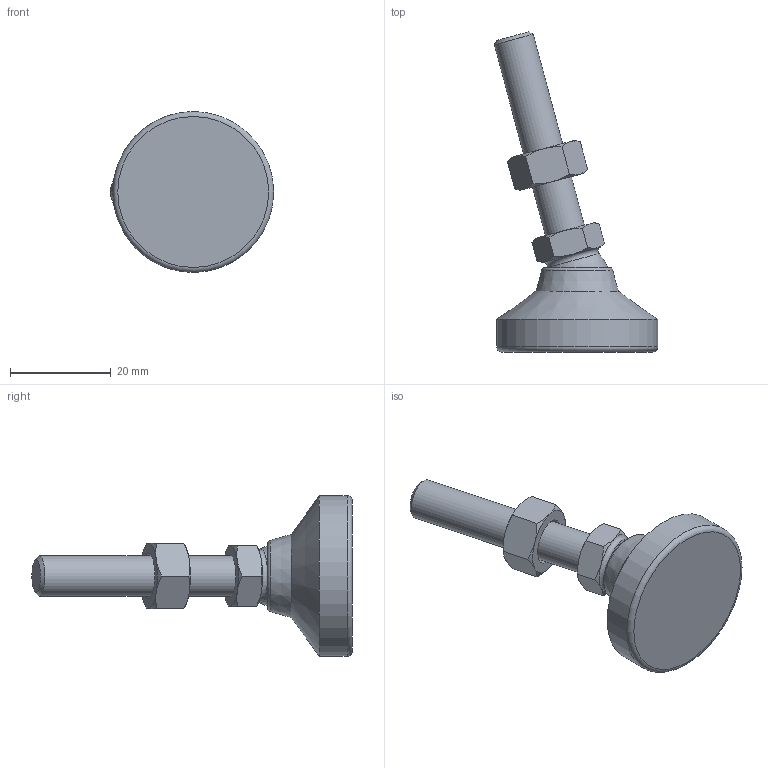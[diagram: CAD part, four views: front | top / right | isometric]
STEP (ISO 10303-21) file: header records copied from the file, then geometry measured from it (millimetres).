
FILE_DESCRIPTION( ( 'STEP AP214' ), ' ' );
FILE_NAME( 'O:/ganter_2015/teil_2/2_5/gn343_2/gn343_2_kr/Levelling foot with threaded stud GN 343.2-32-M8-40-KR-(15).stp', '2015-10-26T09:12:27', ( '' ), ( '' ), ' ', 'PARTsolutions', ' ' );
FILE_SCHEMA( ( 'AUTOMOTIVE_DESIGN { 1 0 10303 214 1 1 1 1 }' ) );
Length unit declared in the file: millimetre
Products named in the file (4): Levelling foot with threaded stud GN 343.2-32-M8-40-KR-(15); _Levelling foot with threaded stud GN 343.2-32-M8-40-KR-(15)_foot; _Levelling foot with threaded stud GN 343.2-32-M8-40-KR-(15)_screw; _Levelling foot with threaded stud GN 343.2-32-M8-40-KR-(15)_nut
Assembly tree (3 placements, depth 2):
  Levelling foot with threaded stud GN 343.2-32-M8-40-KR-(15)
    _Levelling foot with threaded stud GN 343.2-32-M8-40-KR-(15)_foot
    _Levelling foot with threaded stud GN 343.2-32-M8-40-KR-(15)_screw
    _Levelling foot with threaded stud GN 343.2-32-M8-40-KR-(15)_nut
Bounding box: 32.47 x 63.67 x 32 mm (x, y, z)
Volume: 12356.6 mm3; surface area: 5112.5 mm2
Topology: 3 solids, 3 shells, 50 faces, 107 edges, 63 vertices
Faces by surface type: cone 24, plane 18, torus 3, cylinder 3, sphere 2
Full cylindrical faces by diameter (mm): 6.647 x1, 8 x1, 32 x1
Entity records: 1858 total; most frequent: CARTESIAN_POINT 452, DIRECTION 188, ORIENTED_EDGE 176, AXIS2_PLACEMENT_3D 88, EDGE_CURVE 88, EDGE_LOOP 66, VERTEX_POINT 60, FACE_OUTER_BOUND 56
